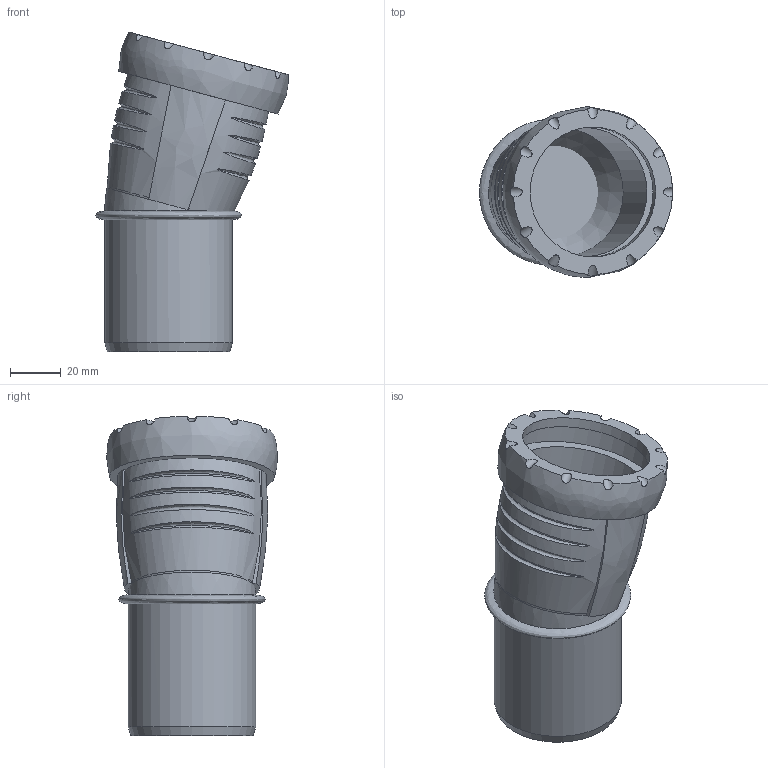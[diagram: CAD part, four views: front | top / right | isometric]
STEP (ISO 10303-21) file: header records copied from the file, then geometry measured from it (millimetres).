
FILE_DESCRIPTION(/* description */ (''),/* implementation_level */ '2;1');
FILE_NAME(/* name */ 'H:\Geberit-Teile\Export\Bogen_TEST\stp\393220.stp',/* time_stamp */ '2017-02-14T10:03:25+01:00',/* author */ ('seihe2'),/* organization */ (''),/* preprocessor_version */ 'ST-DEVELOPER v15.2',/* originating_system */ 'Autodesk Inventor 2014',/* authorisation */ '');
FILE_SCHEMA (('AUTOMOTIVE_DESIGN { 1 0 10303 214 3 1 1 }'));
Length unit declared in the file: millimetre
Products named in the file (1): 393220
Bounding box: 75.76 x 67.08 x 125.47 mm (x, y, z)
Volume: 81619.9 mm3; surface area: 48337.9 mm2
Topology: 2 solids, 2 shells, 54 faces, 132 edges, 93 vertices
Faces by surface type: bspline 25, cylinder 19, plane 8, cone 2
Full cylindrical faces by diameter (mm): 36 x1, 44.15 x1, 50.15 x1, 50.7 x1, 51 x1, 60.1 x1
Entity records: 4033 total; most frequent: CARTESIAN_POINT 2858, ORIENTED_EDGE 250, DIRECTION 174, EDGE_CURVE 123, VERTEX_POINT 92, AXIS2_PLACEMENT_3D 87, EDGE_LOOP 76, B_SPLINE_CURVE_WITH_KNOTS 65
